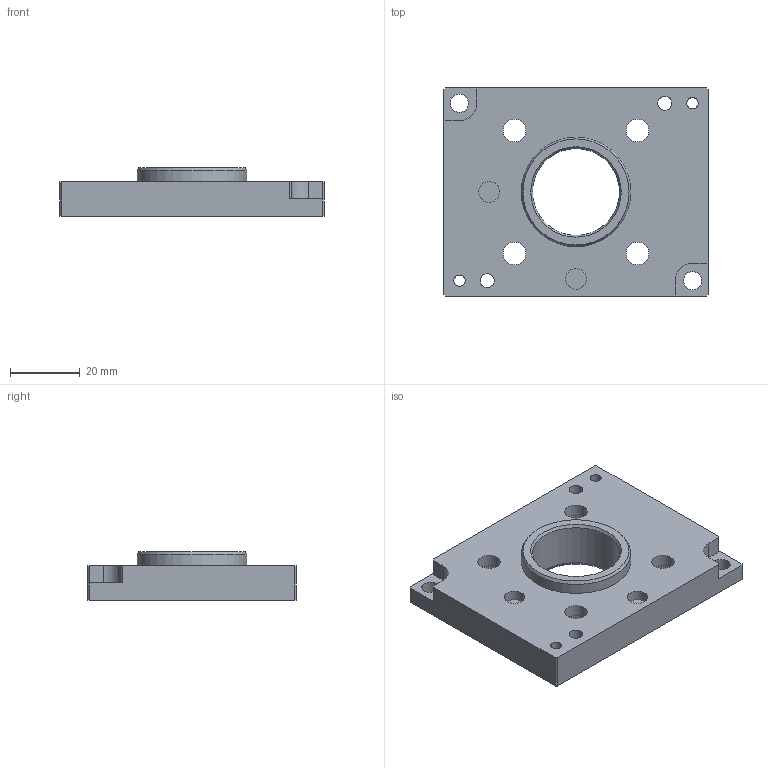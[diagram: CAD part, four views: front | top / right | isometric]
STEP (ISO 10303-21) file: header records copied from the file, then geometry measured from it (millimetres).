
FILE_DESCRIPTION((''),'2;1');
FILE_SCHEMA(('AUTOMOTIVE_DESIGN { 1 0 10303 214 1 1 1 1 }'));
Length unit declared in the file: millimetre
Products named in the file (1): FL-ISO50-IEG76 - CUSTOMER
Bounding box: 76 x 60 x 14 mm (x, y, z)
Volume: 37224.9 mm3; surface area: 13701.4 mm2
Topology: 1 solids, 1 shells, 456 faces, 1222 edges, 816 vertices
Faces by surface type: bspline 274, plane 170, cylinder 9, cone 3
Full cylindrical faces by diameter (mm): 31.5 x1
Entity records: 19510 total; most frequent: CARTESIAN_POINT 9879, ORIENTED_EDGE 2388, EDGE_CURVE 1194, DIRECTION 1113, VERTEX_POINT 809, VECTOR 637, LINE 637, EDGE_LOOP 547
